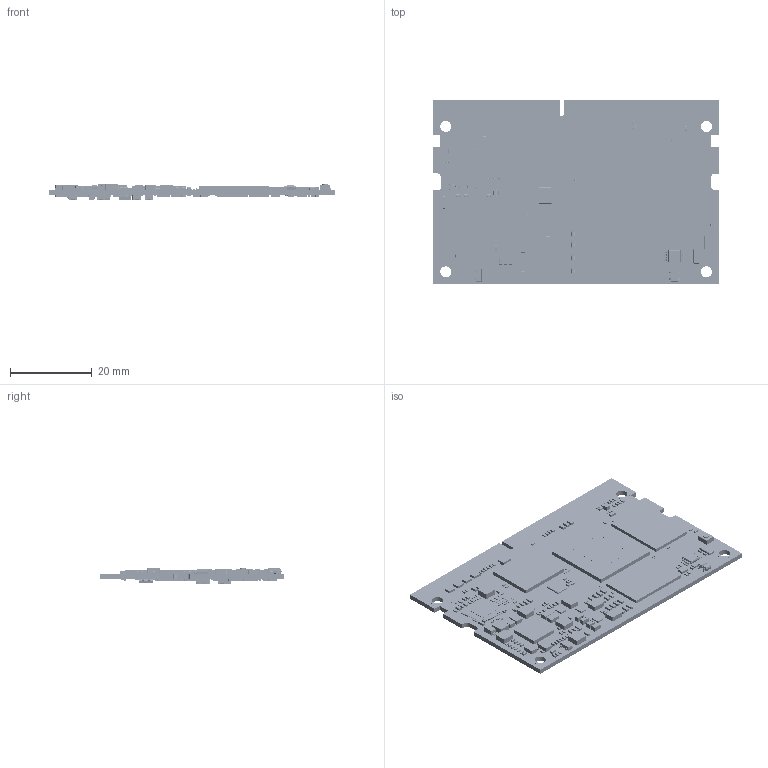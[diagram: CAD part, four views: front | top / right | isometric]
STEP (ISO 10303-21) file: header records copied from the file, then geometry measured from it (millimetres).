
FILE_DESCRIPTION((''),'2;1');
FILE_NAME('NX5_PCBA_X1_1','2024-10-23T18:37:50',('admin'),(''),'CREO PARAMETRIC BY PTC INC, 2024273','CREO PARAMETRIC BY PTC INC, 2024273','');
FILE_SCHEMA(('CONFIG_CONTROL_DESIGN','SHAPE_APPEARANCE_LAYERS_GROUPS'));
Products named in the file (1): NX5_PCBA_X1_1
Bounding box: 69.65 x 45 x 3.92 mm (x, y, z)
Surface area: 8163.9 mm2
Topology: 45 solids, 127 shells, 18971 faces, 46484 edges, 27243 vertices
Faces by surface type: plane 9606, cylinder 5480, extrusion 1977, sphere 1725, torus 128, bspline 47, cone 8
Entity records: 905203 total; most frequent: CARTESIAN_POINT 195341, ORIENTED_EDGE 90148, DIRECTION 85057, PRESENTATION_STYLE_ASSIGNMENT 65793, STYLED_ITEM 47176, CURVE_STYLE 47051, EDGE_CURVE 45074, VECTOR 31601
